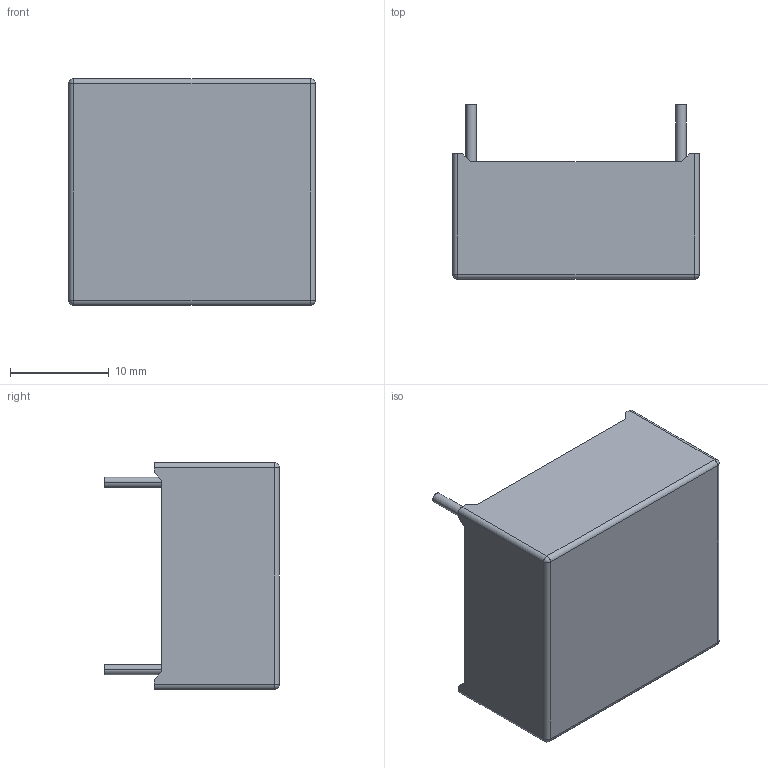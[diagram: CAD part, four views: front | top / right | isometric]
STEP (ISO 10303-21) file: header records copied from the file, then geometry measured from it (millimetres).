
FILE_DESCRIPTION((''),'2;1');
FILE_NAME('TFMOV20S511L-IT-5-001','2020-08-11T',('SET-01114'),(''),'PRO/ENGINEER BY PARAMETRIC TECHNOLOGY CORPORATION, 2012310','PRO/ENGINEER BY PARAMETRIC TECHNOLOGY CORPORATION, 2012310','');
FILE_SCHEMA(('CONFIG_CONTROL_DESIGN','SHAPE_APPEARANCE_LAYERS_GROUPS'));
Length unit declared in the file: millimetre
Products named in the file (1): TFMOV20S511L-IT-5-001
Bounding box: 25 x 17.7 x 23 mm (x, y, z)
Volume: 2085.4 mm3; surface area: 4152.2 mm2
Topology: 1 solids, 2 shells, 102 faces, 268 edges, 164 vertices
Faces by surface type: plane 58, cylinder 28, sphere 16
Entity records: 3883 total; most frequent: CARTESIAN_POINT 577, DIRECTION 528, ORIENTED_EDGE 504, PRESENTATION_STYLE_ASSIGNMENT 253, STYLED_ITEM 253, CURVE_STYLE 252, EDGE_CURVE 252, AXIS2_PLACEMENT_3D 178
